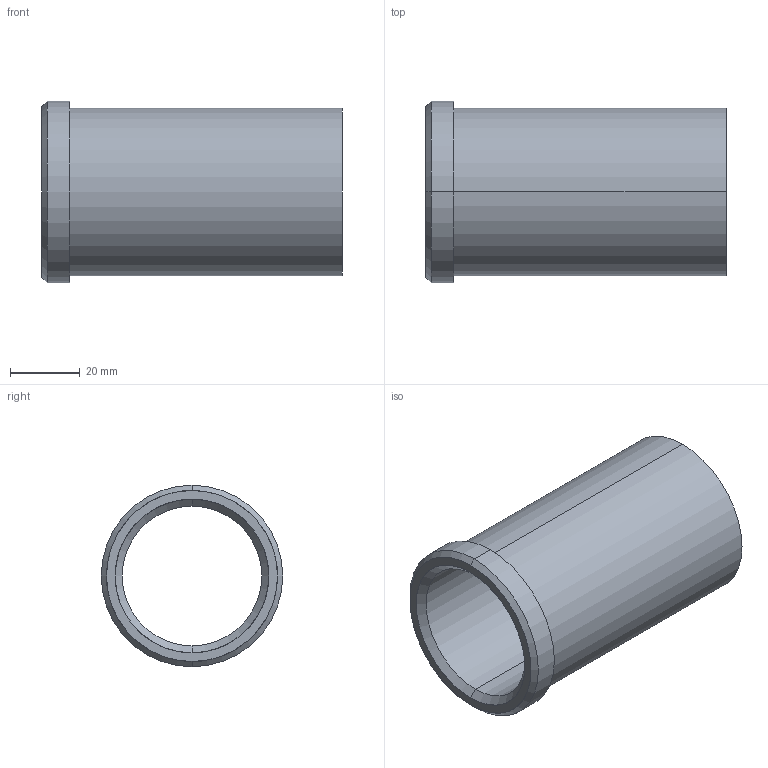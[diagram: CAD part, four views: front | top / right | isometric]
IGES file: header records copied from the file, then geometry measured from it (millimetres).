
Start section: START RECORD GO HERE.
Global section: file name: 353-40X86.igs; native system: DASSAULT SYSTEMES CATIA V5 R20 - www.3ds.com; preprocessor: CATIA Version 5 Release 20 ; author: Utente; organization: NB04-ASUS; date: 20210513.202343; units: millimetre
Bounding box: 86 x 52 x 52 mm (x, y, z)
Surface area: 25215.7 mm2 (no closed solid volume)
Topology: 0 solids, 0 shells, 15 faces, 96 edges, 96 vertices
Faces by surface type: revolution 12, plane 3
